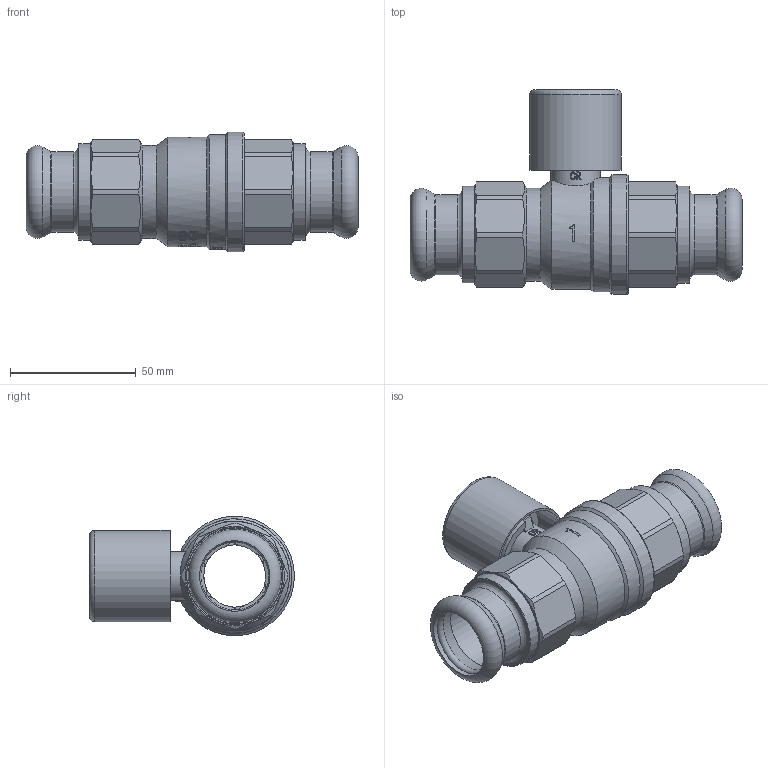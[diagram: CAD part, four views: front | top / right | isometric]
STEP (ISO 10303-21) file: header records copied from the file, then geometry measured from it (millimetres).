
FILE_DESCRIPTION((''),'2;1');
FILE_NAME('P:\Fastrack\53972_CRANE 3D\Press Fit\HATTERSLEY\100LS-PF\28MM\Fig_100LS-PF-28MM.stp','2011-12-07T11:51:04',('dcole'),(''),'Autodesk Inventor 2008','Autodesk Inventor 2008','');
FILE_SCHEMA(('AUTOMOTIVE_DESIGN { 1 0 10303 214 1 1 1 1 }'));
Length unit declared in the file: millimetre
Products named in the file (1): Fig_100LS-PF-28MM
Bounding box: 132 x 81.45 x 47.5 mm (x, y, z)
Volume: 95372 mm3; surface area: 62493 mm2
Topology: 1 solids, 8 shells, 599 faces, 1712 edges, 1173 vertices
Faces by surface type: plane 252, cylinder 117, bspline 109, cone 102, torus 16, sphere 3
Full cylindrical faces by diameter (mm): 2 x2, 10 x1, 10.1 x2, 10.3 x1, 11 x1, 11.5 x1, 14 x1, 14.3 x1, 14.5 x1, 19.5 x1, 21.7 x1, 22.2 x1, 24 x2, 24.8 x5, 28 x4, 30 x2, 30.1 x2, 30.291 x2, 32 x4, 33 x4, 34 x2, 34.4 x1, 36.4 x1, 36.5 x1, 37 x1, 38.5 x2, 39.5 x1, 41 x1, 41.2 x1, 45.5 x1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
Entity records: 39219 total; most frequent: CARTESIAN_POINT 24584, ORIENTED_EDGE 3058, DIRECTION 2609, EDGE_CURVE 1529, VERTEX_POINT 1112, AXIS2_PLACEMENT_3D 974, EDGE_LOOP 811, VECTOR 661
